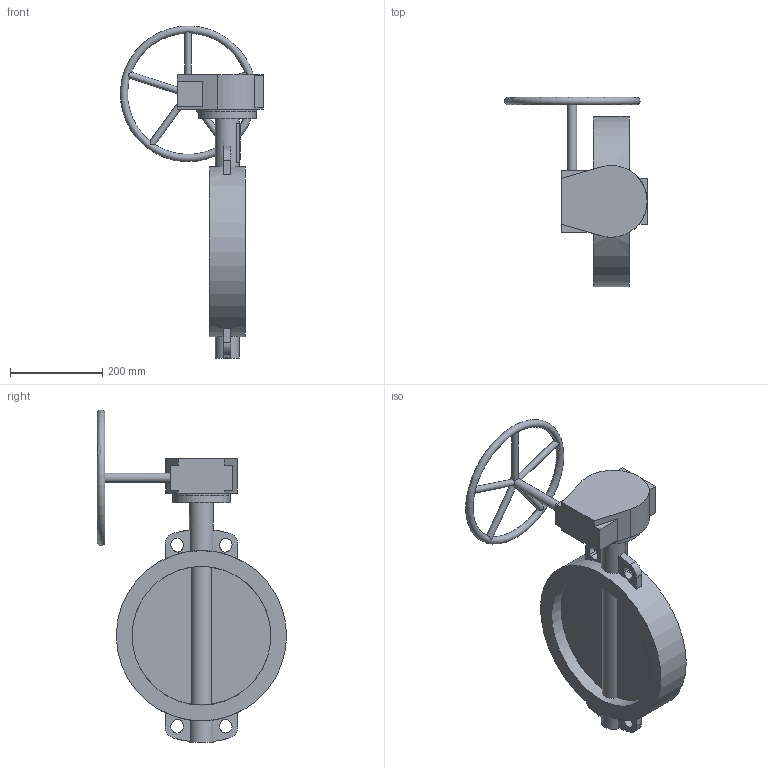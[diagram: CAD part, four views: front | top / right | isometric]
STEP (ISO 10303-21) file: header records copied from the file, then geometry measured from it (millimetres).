
FILE_DESCRIPTION(('STEP AP203'), '1');
FILE_NAME('青蜮铕 017W.ZS DN300 PN10_16 疱潴牝铕', '', ('UNSPECIFIED'), ('UNSPECIFIED'), 'ASCON STEP Converter 1.6', 'ASCON Math Kernel', '');
FILE_SCHEMA(('CONFIG_CONTROL_DESIGN'));
Length unit declared in the file: millimetre
Bounding box: 311.29 x 411 x 721.5 mm (x, y, z)
Volume: 2232772.9 mm3; surface area: 632122.3 mm2
Topology: 1 solids, 2 shells, 848 faces, 2515 edges, 1622 vertices
Faces by surface type: cylinder 643, plane 204, torus 1
Full cylindrical faces by diameter (mm): 8.5 x4, 12 x4, 14 x5, 20 x2, 31.6 x1, 52 x2, 70 x1, 125 x2, 301.5 x2, 370 x1
Entity records: 38314 total; most frequent: CARTESIAN_POINT 7657, DIRECTION 5489, ORIENTED_EDGE 4902, EDGE_CURVE 2490, AXIS2_PLACEMENT_3D 2195, VERTEX_POINT 1621, CIRCLE 1346, LINE 1099
